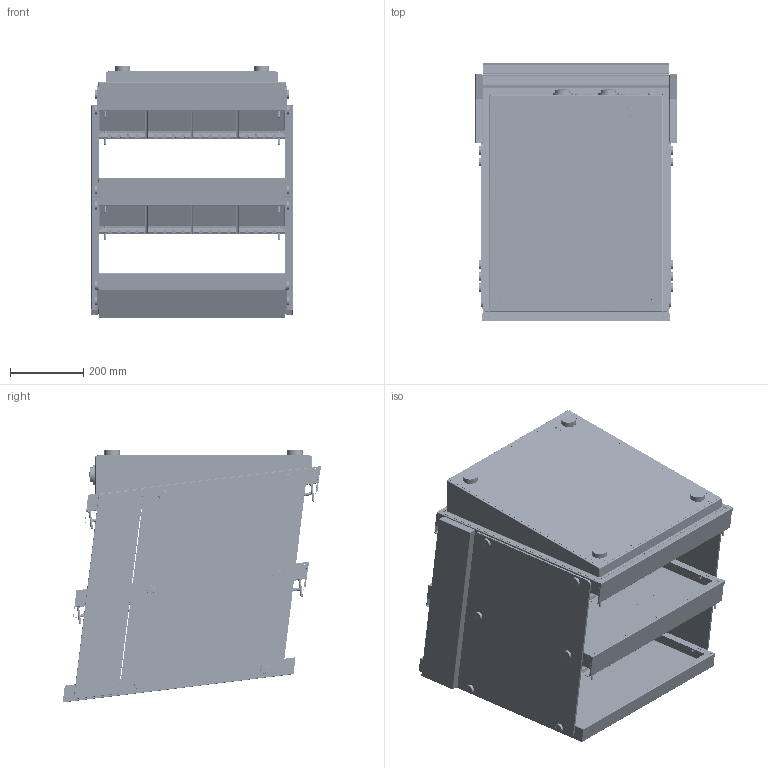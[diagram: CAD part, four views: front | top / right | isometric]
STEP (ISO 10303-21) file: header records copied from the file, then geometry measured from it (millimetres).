
FILE_DESCRIPTION (( 'STEP AP214' ), '1' );
FILE_NAME ('pres_CBIN552.STEP', '2024-12-19T08:46:30', ( '' ), ( '' ), 'SwSTEP 2.0', 'SolidWorks 2025', '' );
FILE_SCHEMA (( 'AUTOMOTIVE_DESIGN' ));
Length unit declared in the file: millimetre
Products named in the file (1): pres_CBIN552
Bounding box: 550.2 x 706.92 x 691.58 mm (x, y, z)
Volume: 5683277.7 mm3; surface area: 7876761.1 mm2
Topology: 119 solids, 119 shells, 7189 faces, 18181 edges, 11330 vertices
Faces by surface type: plane 3022, cylinder 2865, bspline 593, torus 384, sphere 254, cone 71
Entity records: 375680 total; most frequent: CARTESIAN_POINT 202896, ORIENTED_EDGE 36296, DIRECTION 33690, EDGE_CURVE 18148, AXIS2_PLACEMENT_3D 12745, VERTEX_POINT 11314, EDGE_LOOP 8360, LINE 8200
